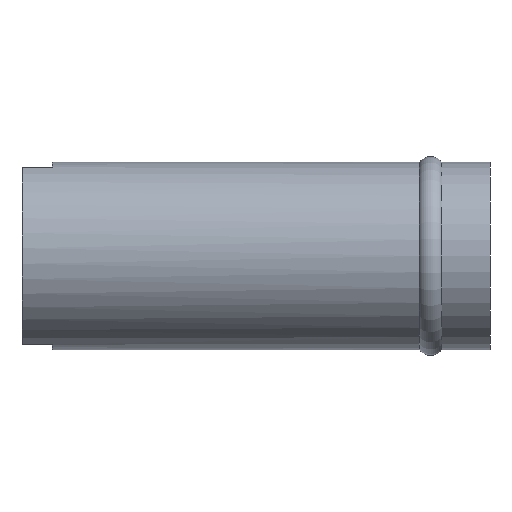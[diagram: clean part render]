
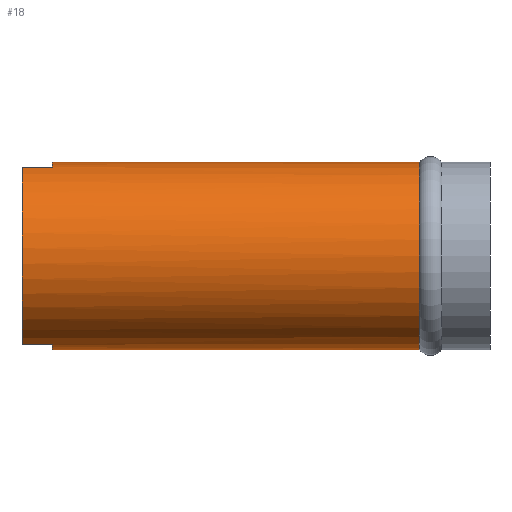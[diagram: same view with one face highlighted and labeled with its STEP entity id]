
A CAD part, front view. The second image highlights one B-rep face of the part: STEP entity #18.
In plain terms, the highlighted cylindrical face has radius 3 mm (diameter 6 mm), a partial arc.
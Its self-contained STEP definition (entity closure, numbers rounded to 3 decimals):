
#15 = DIRECTION ( 'NONE',  ( -1., 0., 0. ) ) ;
#18 = ADVANCED_FACE ( 'NONE', ( #85 ), #31, .T. ) ;
#22 = CARTESIAN_POINT ( 'NONE',  ( 0.974, 0., 3. ) ) ;
#25 = VECTOR ( 'NONE', #309, 1000. ) ;
#29 = EDGE_CURVE ( 'NONE', #108, #53, #321, .T. ) ;
#31 = CYLINDRICAL_SURFACE ( 'NONE', #348, 3. ) ;
#35 = CIRCLE ( 'NONE', #90, 3. ) ;
#36 = CIRCLE ( 'NONE', #319, 3. ) ;
#39 = DIRECTION ( 'NONE',  ( 0., 0., -1. ) ) ;
#43 = DIRECTION ( 'NONE',  ( -1., 0., 0. ) ) ;
#47 = DIRECTION ( 'NONE',  ( 1., 0., 0. ) ) ;
#53 = VERTEX_POINT ( 'NONE', #22 ) ;
#81 = VERTEX_POINT ( 'NONE', #338 ) ;
#82 = CARTESIAN_POINT ( 'NONE',  ( 0.974, 0., 0. ) ) ;
#83 = DIRECTION ( 'NONE',  ( 0., 0., -1. ) ) ;
#85 = FACE_OUTER_BOUND ( 'NONE', #232, .T. ) ;
#90 = AXIS2_PLACEMENT_3D ( 'NONE', #378, #47, #39 ) ;
#96 = ORIENTED_EDGE ( 'NONE', *, *, #374, .T. ) ;
#97 = CARTESIAN_POINT ( 'NONE',  ( 0., 0., 0. ) ) ;
#107 = DIRECTION ( 'NONE',  ( 0., 0., 1. ) ) ;
#108 = VERTEX_POINT ( 'NONE', #248 ) ;
#111 = EDGE_CURVE ( 'NONE', #131, #264, #171, .T. ) ;
#119 = VECTOR ( 'NONE', #167, 1000. ) ;
#125 = EDGE_CURVE ( 'NONE', #53, #131, #36, .T. ) ;
#127 = ORIENTED_EDGE ( 'NONE', *, *, #125, .T. ) ;
#131 = VERTEX_POINT ( 'NONE', #307 ) ;
#132 = CARTESIAN_POINT ( 'NONE',  ( 0., -0.964, 2.841 ) ) ;
#134 = DIRECTION ( 'NONE',  ( 1., 0., 0. ) ) ;
#136 = DIRECTION ( 'NONE',  ( 0., 0., 1. ) ) ;
#145 = VERTEX_POINT ( 'NONE', #327 ) ;
#166 = DIRECTION ( 'NONE',  ( 0., 0., 1. ) ) ;
#167 = DIRECTION ( 'NONE',  ( 1., 0., 0. ) ) ;
#171 = LINE ( 'NONE', #132, #368 ) ;
#176 = CARTESIAN_POINT ( 'NONE',  ( 12.739, 0., 0. ) ) ;
#184 = DIRECTION ( 'NONE',  ( -1., 0., 0. ) ) ;
#198 = DIRECTION ( 'NONE',  ( -1., 0., 0. ) ) ;
#200 = EDGE_CURVE ( 'NONE', #354, #81, #332, .T. ) ;
#206 = CARTESIAN_POINT ( 'NONE',  ( 12.739, 0., -3. ) ) ;
#207 = CARTESIAN_POINT ( 'NONE',  ( 0., -0.964, -2.841 ) ) ;
#223 = VECTOR ( 'NONE', #198, 1000. ) ;
#232 = EDGE_LOOP ( 'NONE', ( #331, #294, #371, #127, #334, #329, #255, #96 ) ) ;
#248 = CARTESIAN_POINT ( 'NONE',  ( 12.739, 0., 3. ) ) ;
#249 = CARTESIAN_POINT ( 'NONE',  ( 0., -0.964, 2.841 ) ) ;
#253 = AXIS2_PLACEMENT_3D ( 'NONE', #263, #43, #107 ) ;
#255 = ORIENTED_EDGE ( 'NONE', *, *, #200, .T. ) ;
#257 = EDGE_CURVE ( 'NONE', #356, #145, #325, .T. ) ;
#263 = CARTESIAN_POINT ( 'NONE',  ( 0., 0., 0. ) ) ;
#264 = VERTEX_POINT ( 'NONE', #249 ) ;
#268 = DIRECTION ( 'NONE',  ( -1., 0., 0. ) ) ;
#276 = CARTESIAN_POINT ( 'NONE',  ( 0., 0., 3. ) ) ;
#294 = ORIENTED_EDGE ( 'NONE', *, *, #312, .T. ) ;
#297 = CIRCLE ( 'NONE', #375, 3. ) ;
#299 = EDGE_CURVE ( 'NONE', #354, #264, #346, .T. ) ;
#307 = CARTESIAN_POINT ( 'NONE',  ( 0.974, -0.964, 2.841 ) ) ;
#309 = DIRECTION ( 'NONE',  ( -1., 0., 0. ) ) ;
#312 = EDGE_CURVE ( 'NONE', #356, #108, #297, .T. ) ;
#319 = AXIS2_PLACEMENT_3D ( 'NONE', #82, #134, #83 ) ;
#321 = LINE ( 'NONE', #276, #223 ) ;
#325 = LINE ( 'NONE', #328, #25 ) ;
#327 = CARTESIAN_POINT ( 'NONE',  ( 0.974, 0., -3. ) ) ;
#328 = CARTESIAN_POINT ( 'NONE',  ( 0., 0., -3. ) ) ;
#329 = ORIENTED_EDGE ( 'NONE', *, *, #299, .F. ) ;
#331 = ORIENTED_EDGE ( 'NONE', *, *, #257, .F. ) ;
#332 = LINE ( 'NONE', #207, #119 ) ;
#334 = ORIENTED_EDGE ( 'NONE', *, *, #111, .T. ) ;
#338 = CARTESIAN_POINT ( 'NONE',  ( 0.974, -0.964, -2.841 ) ) ;
#346 = CIRCLE ( 'NONE', #253, 3. ) ;
#348 = AXIS2_PLACEMENT_3D ( 'NONE', #97, #15, #166 ) ;
#352 = CARTESIAN_POINT ( 'NONE',  ( 0., -0.964, -2.841 ) ) ;
#354 = VERTEX_POINT ( 'NONE', #352 ) ;
#356 = VERTEX_POINT ( 'NONE', #206 ) ;
#368 = VECTOR ( 'NONE', #184, 1000. ) ;
#371 = ORIENTED_EDGE ( 'NONE', *, *, #29, .T. ) ;
#374 = EDGE_CURVE ( 'NONE', #81, #145, #35, .T. ) ;
#375 = AXIS2_PLACEMENT_3D ( 'NONE', #176, #268, #136 ) ;
#378 = CARTESIAN_POINT ( 'NONE',  ( 0.974, 0., 0. ) ) ;
